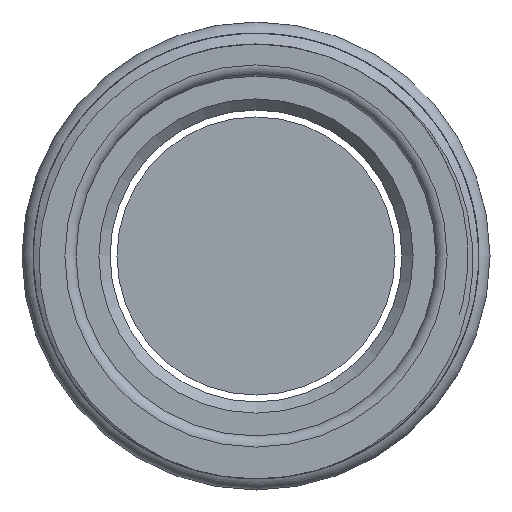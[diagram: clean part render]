
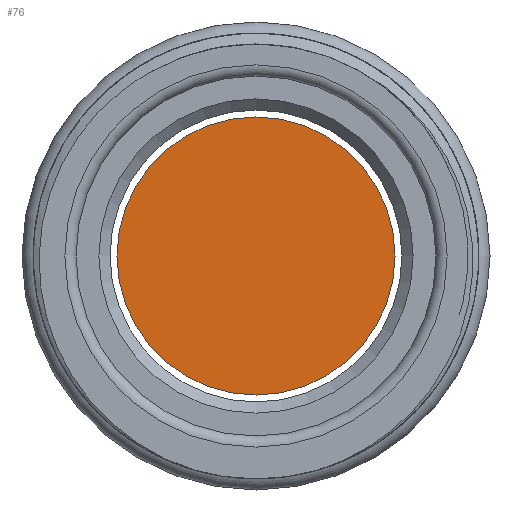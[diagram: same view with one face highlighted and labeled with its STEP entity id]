
A CAD part, front view. The second image highlights one B-rep face of the part: STEP entity #76.
In plain terms, the highlighted planar face has unit normal (0, -1, 0).
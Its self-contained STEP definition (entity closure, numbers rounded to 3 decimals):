
#61=PLANE('',#327);
#69=FACE_OUTER_BOUND('',#145,.T.);
#76=ADVANCED_FACE('',(#69),#61,.F.);
#145=EDGE_LOOP('',(#187));
#187=ORIENTED_EDGE('',*,*,#271,.F.);
#245=VERTEX_POINT('',#461);
#271=EDGE_CURVE('',#245,#245,#301,.T.);
#301=CIRCLE('',#324,12.475);
#324=AXIS2_PLACEMENT_3D('',#460,#371,#372);
#327=AXIS2_PLACEMENT_3D('',#464,#377,#378);
#371=DIRECTION('',(0.,1.,0.));
#372=DIRECTION('',(1.,0.,0.));
#377=DIRECTION('',(0.,1.,0.));
#378=DIRECTION('',(0.,0.,1.));
#460=CARTESIAN_POINT('',(0.,-10.,0.));
#461=CARTESIAN_POINT('',(12.475,-10.,0.));
#464=CARTESIAN_POINT('',(0.,-10.,0.));
